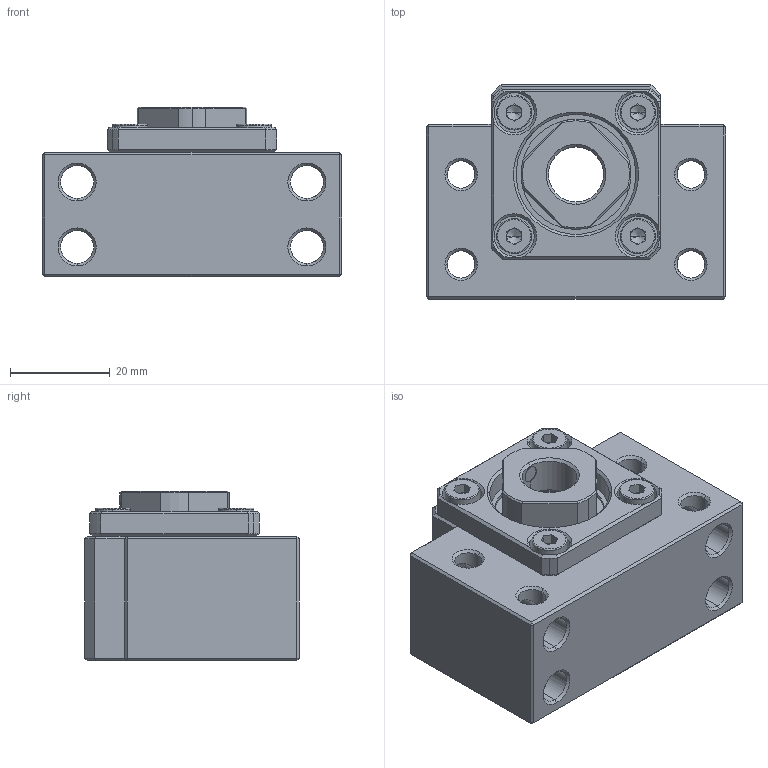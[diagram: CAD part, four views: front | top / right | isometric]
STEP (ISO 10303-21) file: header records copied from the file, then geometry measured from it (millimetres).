
FILE_DESCRIPTION (( 'STEP AP203' ), '1' );
FILE_NAME ('BSGK-12_203.STEP', '2013-02-26T01:17:51', ( '' ), ( '' ), 'SwSTEP 2.0', 'SolidWorks 2012', '' );
FILE_SCHEMA (( 'CONFIG_CONTROL_DESIGN' ));
Length unit declared in the file: millimetre
Products named in the file (1): BSGK-12_203
Bounding box: 60 x 43 x 34 mm (x, y, z)
Volume: 53062.9 mm3; surface area: 19422.9 mm2
Topology: 1 solids, 17 shells, 480 faces, 1116 edges, 649 vertices
Faces by surface type: plane 177, cylinder 143, cone 120, torus 40
Entity records: 14655 total; most frequent: CARTESIAN_POINT 3589, DIRECTION 2418, ORIENTED_EDGE 2196, EDGE_CURVE 1098, AXIS2_PLACEMENT_3D 950, VERTEX_POINT 649, EDGE_LOOP 533, VECTOR 518
